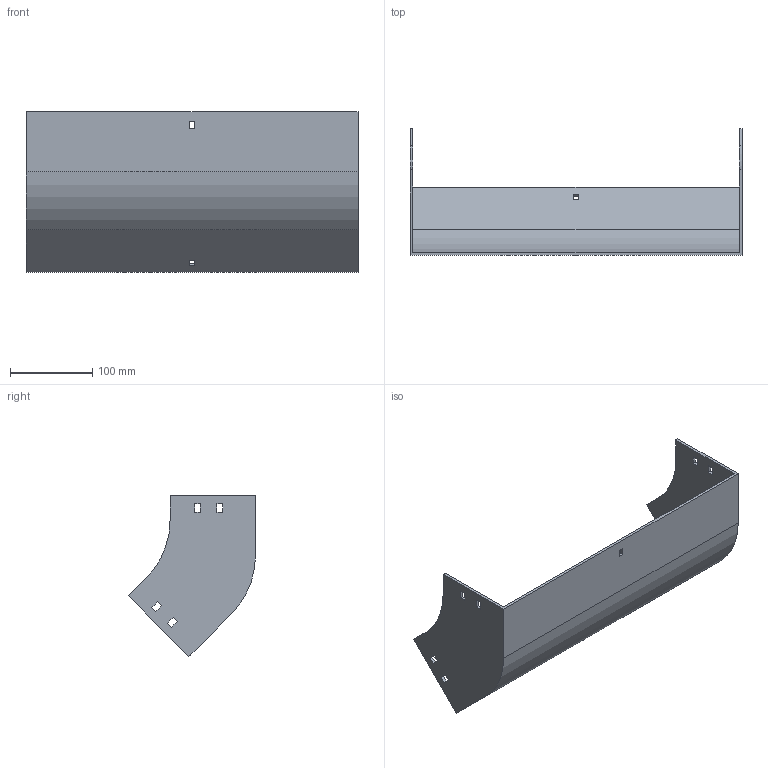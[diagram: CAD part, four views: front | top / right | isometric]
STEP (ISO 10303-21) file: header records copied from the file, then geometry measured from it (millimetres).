
FILE_DESCRIPTION (( 'STEP AP214' ), '1' );
FILE_NAME ('31F1D400.step', '2025-02-21T12:59:08', ( '' ), ( '' ), 'SwSTEP 2.0', 'SolidWorks 2023', '' );
FILE_SCHEMA (( 'AUTOMOTIVE_DESIGN' ));
Length unit declared in the file: millimetre
Products named in the file (1): 31F1D400
Bounding box: 404 x 154.5 x 195.46 mm (x, y, z)
Volume: 443286.6 mm3; surface area: 259690 mm2
Topology: 1 solids, 1 shells, 58 faces, 168 edges, 112 vertices
Faces by surface type: plane 54, cylinder 4
Entity records: 1943 total; most frequent: CARTESIAN_POINT 339, ORIENTED_EDGE 336, DIRECTION 294, EDGE_CURVE 168, LINE 160, VECTOR 160, VERTEX_POINT 112, EDGE_LOOP 78
